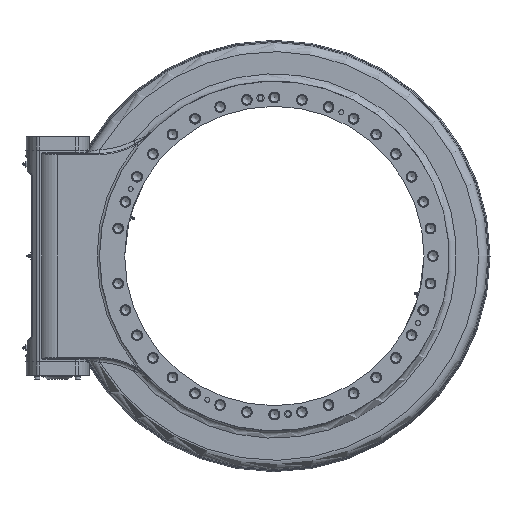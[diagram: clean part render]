
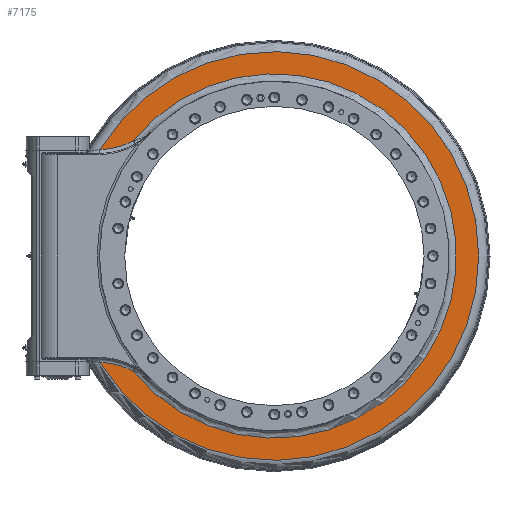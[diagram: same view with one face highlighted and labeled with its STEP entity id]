
A CAD part, front view. The second image highlights one B-rep face of the part: STEP entity #7175.
In plain terms, the highlighted planar face has unit normal (0, -1, 0).
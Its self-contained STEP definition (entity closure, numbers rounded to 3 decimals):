
#693 = EDGE_LOOP ( 'NONE', ( #31665, #16326, #14156, #34919 ) ) ;
#4960 = CARTESIAN_POINT ( 'NONE',  ( 0., -42., 0. ) ) ;
#7175 = ADVANCED_FACE ( 'NONE', ( #49851 ), #37461, .F. ) ;
#7232 = VERTEX_POINT ( 'NONE', #30123 ) ;
#7527 = CIRCLE ( 'NONE', #46494, 142. ) ;
#7926 = CARTESIAN_POINT ( 'NONE',  ( -356.176, -42., -358. ) ) ;
#9296 = DIRECTION ( 'NONE',  ( 0., 0., 1. ) ) ;
#9662 = EDGE_CURVE ( 'NONE', #31574, #38085, #7527, .T. ) ;
#10050 = EDGE_CURVE ( 'NONE', #43770, #31574, #17410, .T. ) ;
#12049 = DIRECTION ( 'NONE',  ( 0., 0., 1. ) ) ;
#12253 = DIRECTION ( 'NONE',  ( 0., 0., 1. ) ) ;
#12364 = CARTESIAN_POINT ( 'NONE',  ( -354.35, -42., 216.012 ) ) ;
#14049 = CIRCLE ( 'NONE', #36681, 142. ) ;
#14156 = ORIENTED_EDGE ( 'NONE', *, *, #17703, .T. ) ;
#16326 = ORIENTED_EDGE ( 'NONE', *, *, #9662, .T. ) ;
#17410 = CIRCLE ( 'NONE', #35184, 415. ) ;
#17703 = EDGE_CURVE ( 'NONE', #38085, #7232, #35360, .T. ) ;
#17827 = CARTESIAN_POINT ( 'NONE',  ( -356.176, -42., 358. ) ) ;
#19347 = CARTESIAN_POINT ( 'NONE',  ( -354.35, -42., -216.012 ) ) ;
#20932 = AXIS2_PLACEMENT_3D ( 'NONE', #4960, #20938, #28930 ) ;
#20938 = DIRECTION ( 'NONE',  ( 0., 1., 0. ) ) ;
#24225 = DIRECTION ( 'NONE',  ( 0., -1., 0. ) ) ;
#27982 = CARTESIAN_POINT ( 'NONE',  ( -286.292, -42., 234.387 ) ) ;
#28009 = CARTESIAN_POINT ( 'NONE',  ( 0., -42., 0. ) ) ;
#28038 = DIRECTION ( 'NONE',  ( 0., 1., 0. ) ) ;
#28930 = DIRECTION ( 'NONE',  ( 0., 0., 1. ) ) ;
#30123 = CARTESIAN_POINT ( 'NONE',  ( -286.292, -42., -234.387 ) ) ;
#31574 = VERTEX_POINT ( 'NONE', #12364 ) ;
#31665 = ORIENTED_EDGE ( 'NONE', *, *, #10050, .T. ) ;
#33595 = DIRECTION ( 'NONE',  ( 0., -1., 0. ) ) ;
#34919 = ORIENTED_EDGE ( 'NONE', *, *, #35199, .T. ) ;
#35184 = AXIS2_PLACEMENT_3D ( 'NONE', #28009, #35960, #40537 ) ;
#35199 = EDGE_CURVE ( 'NONE', #7232, #43770, #14049, .T. ) ;
#35360 = CIRCLE ( 'NONE', #41164, 370. ) ;
#35829 = CARTESIAN_POINT ( 'NONE',  ( 0., -42., 0. ) ) ;
#35960 = DIRECTION ( 'NONE',  ( 0., -1., 0. ) ) ;
#36681 = AXIS2_PLACEMENT_3D ( 'NONE', #7926, #24225, #12253 ) ;
#37461 = PLANE ( 'NONE',  #20932 ) ;
#38085 = VERTEX_POINT ( 'NONE', #27982 ) ;
#40537 = DIRECTION ( 'NONE',  ( 0., 0., 1. ) ) ;
#41164 = AXIS2_PLACEMENT_3D ( 'NONE', #35829, #28038, #12049 ) ;
#43770 = VERTEX_POINT ( 'NONE', #19347 ) ;
#46494 = AXIS2_PLACEMENT_3D ( 'NONE', #17827, #33595, #9296 ) ;
#49851 = FACE_OUTER_BOUND ( 'NONE', #693, .T. ) ;
